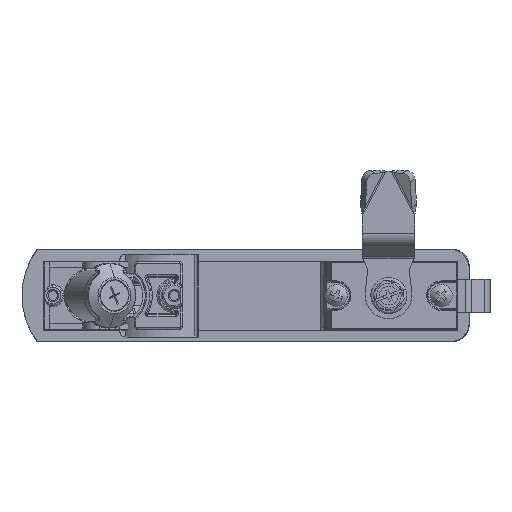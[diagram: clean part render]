
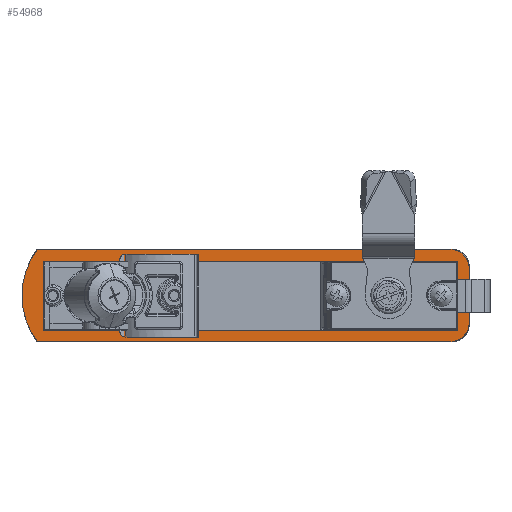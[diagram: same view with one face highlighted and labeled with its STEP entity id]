
A CAD part, front view. The second image highlights one B-rep face of the part: STEP entity #54968.
In plain terms, the highlighted planar face has unit normal (0, -1, 0) as drawn and (0, 0, -1) by its records, which use the part's own axes.
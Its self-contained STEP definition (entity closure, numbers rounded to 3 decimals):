
#512 = VECTOR ( 'NONE', #63147, 1000. ) ;
#992 = AXIS2_PLACEMENT_3D ( 'NONE', #16583, #63746, #10424 ) ;
#1005 = EDGE_CURVE ( 'NONE', #38967, #57124, #86623, .T. ) ;
#1433 = EDGE_CURVE ( 'NONE', #82959, #21445, #30509, .T. ) ;
#1617 = ORIENTED_EDGE ( 'NONE', *, *, #36606, .F. ) ;
#1627 = VECTOR ( 'NONE', #67118, 1000. ) ;
#2438 = VECTOR ( 'NONE', #74962, 1000. ) ;
#2762 = DIRECTION ( 'NONE',  ( -1., 0., 0. ) ) ;
#3100 = PLANE ( 'NONE',  #992 ) ;
#3236 = DIRECTION ( 'NONE',  ( -1., 0., 0. ) ) ;
#3396 = VERTEX_POINT ( 'NONE', #13074 ) ;
#3946 = VECTOR ( 'NONE', #20778, 1000. ) ;
#5061 = LINE ( 'NONE', #53893, #18679 ) ;
#8115 = AXIS2_PLACEMENT_3D ( 'NONE', #61940, #68397, #2762 ) ;
#8401 = CARTESIAN_POINT ( 'NONE',  ( 12.5, -71.625, -1. ) ) ;
#9194 = ORIENTED_EDGE ( 'NONE', *, *, #1005, .F. ) ;
#10424 = DIRECTION ( 'NONE',  ( 1., 0., 0. ) ) ;
#11801 = LINE ( 'NONE', #73279, #43292 ) ;
#13074 = CARTESIAN_POINT ( 'NONE',  ( -12.5, 78.375, -1. ) ) ;
#13435 = DIRECTION ( 'NONE',  ( 0., 0., 1. ) ) ;
#13547 = ORIENTED_EDGE ( 'NONE', *, *, #70939, .T. ) ;
#14138 = CARTESIAN_POINT ( 'NONE',  ( -16.75, -73.937, -1. ) ) ;
#14221 = CARTESIAN_POINT ( 'NONE',  ( -12.5, -71.625, -1. ) ) ;
#16583 = CARTESIAN_POINT ( 'NONE',  ( 0., -51.5, -1. ) ) ;
#17102 = ORIENTED_EDGE ( 'NONE', *, *, #64636, .T. ) ;
#18679 = VECTOR ( 'NONE', #66451, 1000. ) ;
#20778 = DIRECTION ( 'NONE',  ( 0., 1., 0. ) ) ;
#21270 = EDGE_CURVE ( 'NONE', #58247, #25516, #64309, .T. ) ;
#21445 = VERTEX_POINT ( 'NONE', #35725 ) ;
#22066 = VERTEX_POINT ( 'NONE', #34380 ) ;
#23363 = EDGE_CURVE ( 'NONE', #3396, #38317, #5061, .T. ) ;
#23369 = CARTESIAN_POINT ( 'NONE',  ( 12.5, 78.375, -1. ) ) ;
#25516 = VERTEX_POINT ( 'NONE', #55759 ) ;
#27228 = CARTESIAN_POINT ( 'NONE',  ( 0., -51.5, -1. ) ) ;
#28701 = DIRECTION ( 'NONE',  ( -1., 0., 0. ) ) ;
#30244 = LINE ( 'NONE', #61201, #3946 ) ;
#30509 = LINE ( 'NONE', #56611, #37778 ) ;
#34380 = CARTESIAN_POINT ( 'NONE',  ( 9.75, 82.5, -1. ) ) ;
#35725 = CARTESIAN_POINT ( 'NONE',  ( -12.5, -71.625, -1. ) ) ;
#36145 = CARTESIAN_POINT ( 'NONE',  ( 9.75, 75.5, -1. ) ) ;
#36606 = EDGE_CURVE ( 'NONE', #21445, #3396, #83399, .T. ) ;
#37778 = VECTOR ( 'NONE', #3236, 1000. ) ;
#37873 = ORIENTED_EDGE ( 'NONE', *, *, #1433, .F. ) ;
#38317 = VERTEX_POINT ( 'NONE', #23369 ) ;
#38522 = ORIENTED_EDGE ( 'NONE', *, *, #81317, .F. ) ;
#38967 = VERTEX_POINT ( 'NONE', #63695 ) ;
#40317 = ORIENTED_EDGE ( 'NONE', *, *, #78942, .T. ) ;
#41037 = FACE_BOUND ( 'NONE', #85760, .T. ) ;
#43292 = VECTOR ( 'NONE', #59218, 1000. ) ;
#48031 = VERTEX_POINT ( 'NONE', #81303 ) ;
#51438 = CIRCLE ( 'NONE', #78217, 7. ) ;
#53893 = CARTESIAN_POINT ( 'NONE',  ( -12.5, 78.375, -1. ) ) ;
#54968 = ADVANCED_FACE ( 'NONE', ( #41037, #74643 ), #3100, .F. ) ;
#55239 = DIRECTION ( 'NONE',  ( 0., 0., 1. ) ) ;
#55759 = CARTESIAN_POINT ( 'NONE',  ( 16.75, -73.937, -1. ) ) ;
#56105 = DIRECTION ( 'NONE',  ( -1., 0., 0. ) ) ;
#56611 = CARTESIAN_POINT ( 'NONE',  ( -12.5, -71.625, -1. ) ) ;
#56828 = CARTESIAN_POINT ( 'NONE',  ( -16.75, 75.5, -1. ) ) ;
#57124 = VERTEX_POINT ( 'NONE', #56828 ) ;
#58247 = VERTEX_POINT ( 'NONE', #14138 ) ;
#58278 = AXIS2_PLACEMENT_3D ( 'NONE', #27228, #13435, #28701 ) ;
#59007 = LINE ( 'NONE', #8401, #2438 ) ;
#59218 = DIRECTION ( 'NONE',  ( 1., 0., 0. ) ) ;
#60239 = ORIENTED_EDGE ( 'NONE', *, *, #21270, .F. ) ;
#61201 = CARTESIAN_POINT ( 'NONE',  ( -16.75, 75.5, -1. ) ) ;
#61409 = LINE ( 'NONE', #67420, #1627 ) ;
#61940 = CARTESIAN_POINT ( 'NONE',  ( -9.75, 75.5, -1. ) ) ;
#63147 = DIRECTION ( 'NONE',  ( 0., 1., 0. ) ) ;
#63695 = CARTESIAN_POINT ( 'NONE',  ( -9.75, 82.5, -1. ) ) ;
#63746 = DIRECTION ( 'NONE',  ( 0., 0., 1. ) ) ;
#64046 = EDGE_LOOP ( 'NONE', ( #13547, #9194, #40317, #68218, #17102, #60239 ) ) ;
#64309 = CIRCLE ( 'NONE', #58278, 28. ) ;
#64636 = EDGE_CURVE ( 'NONE', #48031, #25516, #61409, .T. ) ;
#66451 = DIRECTION ( 'NONE',  ( 1., 0., 0. ) ) ;
#67118 = DIRECTION ( 'NONE',  ( 0., -1., 0. ) ) ;
#67420 = CARTESIAN_POINT ( 'NONE',  ( 16.75, -73.937, -1. ) ) ;
#68218 = ORIENTED_EDGE ( 'NONE', *, *, #83520, .F. ) ;
#68397 = DIRECTION ( 'NONE',  ( 0., 0., 1. ) ) ;
#68894 = ORIENTED_EDGE ( 'NONE', *, *, #23363, .F. ) ;
#70939 = EDGE_CURVE ( 'NONE', #58247, #57124, #30244, .T. ) ;
#73279 = CARTESIAN_POINT ( 'NONE',  ( 9.75, 82.5, -1. ) ) ;
#74643 = FACE_OUTER_BOUND ( 'NONE', #64046, .T. ) ;
#74962 = DIRECTION ( 'NONE',  ( 0., -1., 0. ) ) ;
#77910 = CARTESIAN_POINT ( 'NONE',  ( 12.5, -71.625, -1. ) ) ;
#78217 = AXIS2_PLACEMENT_3D ( 'NONE', #36145, #55239, #56105 ) ;
#78942 = EDGE_CURVE ( 'NONE', #38967, #22066, #11801, .T. ) ;
#81303 = CARTESIAN_POINT ( 'NONE',  ( 16.75, 75.5, -1. ) ) ;
#81317 = EDGE_CURVE ( 'NONE', #38317, #82959, #59007, .T. ) ;
#82959 = VERTEX_POINT ( 'NONE', #77910 ) ;
#83399 = LINE ( 'NONE', #14221, #512 ) ;
#83520 = EDGE_CURVE ( 'NONE', #48031, #22066, #51438, .T. ) ;
#85760 = EDGE_LOOP ( 'NONE', ( #68894, #1617, #37873, #38522 ) ) ;
#86623 = CIRCLE ( 'NONE', #8115, 7. ) ;
